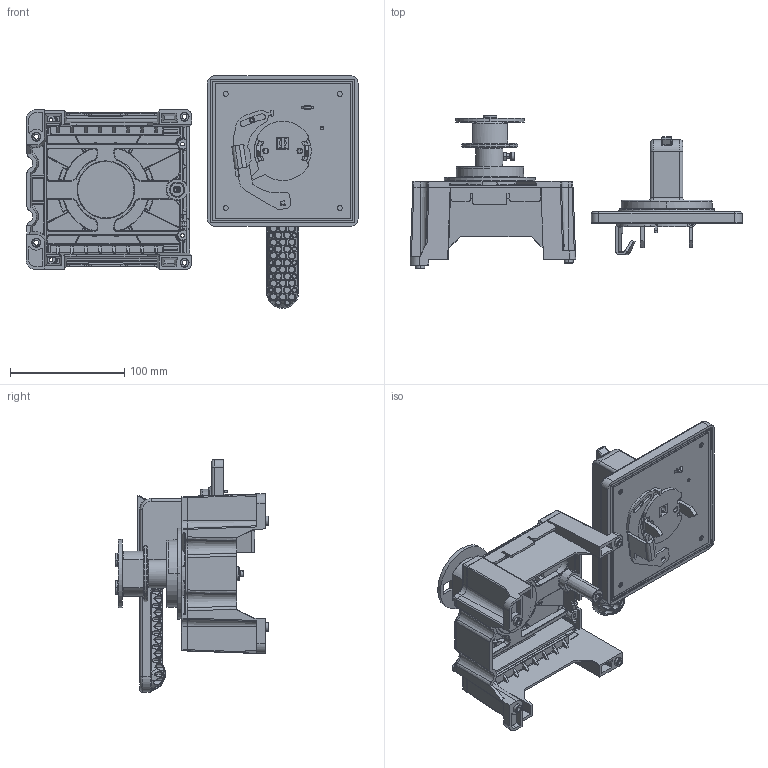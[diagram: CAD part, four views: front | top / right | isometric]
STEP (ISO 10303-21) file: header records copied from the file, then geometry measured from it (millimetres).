
FILE_DESCRIPTION(/* description */ (''),/* implementation_level */ '2;1');
FILE_NAME(/* name */ 'TFG63GP_3D DATA.stp',/* time_stamp */ '2018-06-05T09:55:52+09:00',/* author */ (''),/* organization */ (''),/* preprocessor_version */ 'ST-DEVELOPER v15',/* originating_system */ 'SIEMENS PLM Software NX 9.0',/* authorisation */ '');
FILE_SCHEMA (('AP203_CONFIGURATION_CONTROLLED_3D_DESIGN_OF_MECHANICAL_PARTS_AND_ASSEMBLIES_MIM_LF { 1 0 10303 403 2 1 2}'));
Products named in the file (24): U8_HM_HANDLE_EX_INSERT_COVER; U6_HM_FRAME; U6_HM_FRAME_COVER; U8_HM_ROLL_B_RING; U6_HM_TRIP_BUTTON; M4_L12_HEX_SOCKET_BOLT; M4_HEX_NUT; U8_HM_ROLL_A_RING; U8_HM_ON_OFF_D_LEVER; U8_HM_STOP_BOLT; U8_HM_HANDLE; U8_HM_COVER_PLATE; U8_HM_ON_OFF_U_LEVER; U8_HM_DOOR_LOCK_PLATE; U8_HM_SEALING; U8_HM_KEY_LOCK_CAP; U8_HM_KEY_LOCK_RIVET_PIN; U8_HM_LOCK_PLATE_SPRING_AF1; U8_HM_ON_OFF_LABEL; U8_HM_RING; U6_HM_TFG_FRAME_ASSY_ASM; U8_HM_HANDLE_COVER_ASM; U8_HM_HANDLE_ASSY_ASM; u6_tfg_63gp_u3_asm_stp
Assembly tree (24 placements, depth 4):
  u6_tfg_63gp_u3_asm_stp
    U8_HM_HANDLE_ASSY_ASM
      U8_HM_RING
      U8_HM_ON_OFF_LABEL
      U8_HM_LOCK_PLATE_SPRING_AF1
      U8_HM_KEY_LOCK_RIVET_PIN
      U8_HM_KEY_LOCK_CAP
      U8_HM_SEALING
      U8_HM_DOOR_LOCK_PLATE
      U8_HM_ON_OFF_U_LEVER
      U8_HM_COVER_PLATE
      U8_HM_HANDLE_COVER_ASM
        U8_HM_HANDLE_EX_INSERT_COVER
      U8_HM_HANDLE
    U6_HM_TFG_FRAME_ASSY_ASM
      U8_HM_STOP_BOLT  x2
      U8_HM_ON_OFF_D_LEVER
      U8_HM_ROLL_A_RING
      M4_HEX_NUT
      M4_L12_HEX_SOCKET_BOLT
      U6_HM_TRIP_BUTTON
      U8_HM_ROLL_B_RING
      U6_HM_FRAME_COVER
      U6_HM_FRAME
Bounding box: 291 x 134.6 x 204 mm (x, y, z)
Volume: 532693.8 mm3; surface area: 392450.8 mm2
Topology: 21 solids, 21 shells, 4129 faces, 10202 edges, 6265 vertices
Faces by surface type: plane 1387, cylinder 1280, bspline 458, torus 454, cone 231, sphere 198, extrusion 121
Full cylindrical faces by diameter (mm): 49.5 x1
Entity records: 167738 total; most frequent: CARTESIAN_POINT 70220, ORIENTED_EDGE 20270, DIRECTION 19457, EDGE_CURVE 10135, AXIS2_PLACEMENT_3D 7306, VERTEX_POINT 6224, VECTOR 4845, LINE 4724
